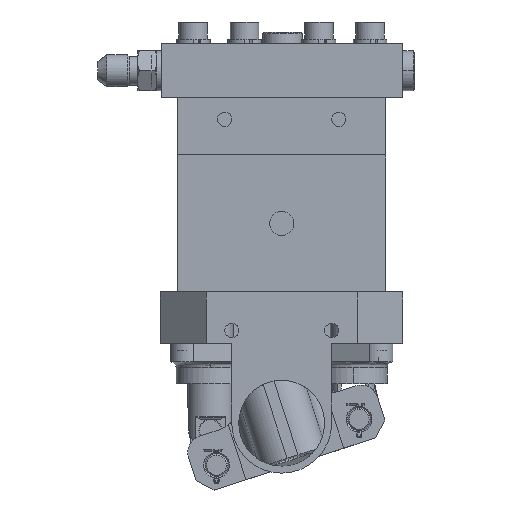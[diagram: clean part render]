
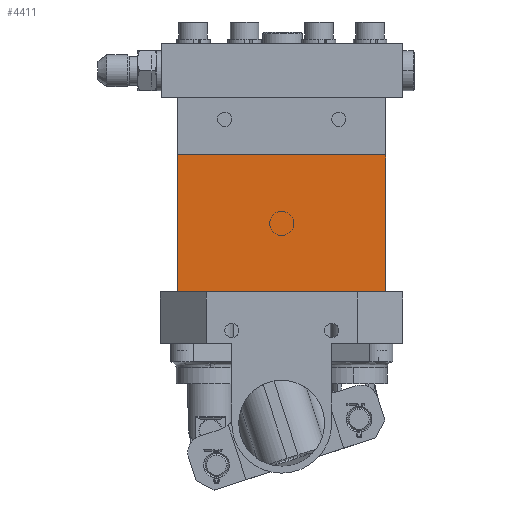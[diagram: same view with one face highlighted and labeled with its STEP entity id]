
A CAD part, front view. The second image highlights one B-rep face of the part: STEP entity #4411.
In plain terms, the highlighted planar face has unit normal (0, 1, 0).
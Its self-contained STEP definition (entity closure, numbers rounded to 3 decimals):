
#209 = EDGE_LOOP ( 'NONE', ( #29406, #19700, #30685, #22601 ) ) ;
#1458 = CARTESIAN_POINT ( 'NONE',  ( -55.505, 12.111, 66. ) ) ;
#3473 = EDGE_CURVE ( 'NONE', #17314, #12150, #29342, .T. ) ;
#4037 = LINE ( 'NONE', #17526, #6325 ) ;
#4411 = ADVANCED_FACE ( 'NONE', ( #18226 ), #31164, .T. ) ;
#6078 = VERTEX_POINT ( 'NONE', #13946 ) ;
#6267 = EDGE_CURVE ( 'NONE', #12150, #6078, #4037, .T. ) ;
#6325 = VECTOR ( 'NONE', #27536, 1000. ) ;
#6490 = DIRECTION ( 'NONE',  ( 1., 0., 0. ) ) ;
#9522 = AXIS2_PLACEMENT_3D ( 'NONE', #11755, #31268, #16654 ) ;
#10404 = LINE ( 'NONE', #13121, #18410 ) ;
#11038 = LINE ( 'NONE', #30442, #28204 ) ;
#11755 = CARTESIAN_POINT ( 'NONE',  ( 17.495, 12.111, 18. ) ) ;
#12150 = VERTEX_POINT ( 'NONE', #27032 ) ;
#12825 = EDGE_CURVE ( 'NONE', #24253, #6078, #11038, .T. ) ;
#13121 = CARTESIAN_POINT ( 'NONE',  ( -55.505, 12.111, 42. ) ) ;
#13946 = CARTESIAN_POINT ( 'NONE',  ( 17.495, 12.111, 18. ) ) ;
#15500 = DIRECTION ( 'NONE',  ( 1., 0., 0. ) ) ;
#16654 = DIRECTION ( 'NONE',  ( -1., 0., 0. ) ) ;
#17314 = VERTEX_POINT ( 'NONE', #1458 ) ;
#17526 = CARTESIAN_POINT ( 'NONE',  ( 17.495, 12.111, 42. ) ) ;
#18117 = DIRECTION ( 'NONE',  ( 0., 0., 1. ) ) ;
#18226 = FACE_OUTER_BOUND ( 'NONE', #209, .T. ) ;
#18410 = VECTOR ( 'NONE', #18117, 1000. ) ;
#19700 = ORIENTED_EDGE ( 'NONE', *, *, #20230, .T. ) ;
#20230 = EDGE_CURVE ( 'NONE', #24253, #17314, #10404, .T. ) ;
#22446 = VECTOR ( 'NONE', #6490, 1000. ) ;
#22601 = ORIENTED_EDGE ( 'NONE', *, *, #6267, .T. ) ;
#23758 = CARTESIAN_POINT ( 'NONE',  ( -19.005, 12.111, 66. ) ) ;
#24253 = VERTEX_POINT ( 'NONE', #29024 ) ;
#27032 = CARTESIAN_POINT ( 'NONE',  ( 17.495, 12.111, 66. ) ) ;
#27536 = DIRECTION ( 'NONE',  ( 0., 0., -1. ) ) ;
#28204 = VECTOR ( 'NONE', #15500, 1000. ) ;
#29024 = CARTESIAN_POINT ( 'NONE',  ( -55.505, 12.111, 18. ) ) ;
#29342 = LINE ( 'NONE', #23758, #22446 ) ;
#29406 = ORIENTED_EDGE ( 'NONE', *, *, #12825, .F. ) ;
#30442 = CARTESIAN_POINT ( 'NONE',  ( -19.005, 12.111, 18. ) ) ;
#30685 = ORIENTED_EDGE ( 'NONE', *, *, #3473, .T. ) ;
#31164 = PLANE ( 'NONE',  #9522 ) ;
#31268 = DIRECTION ( 'NONE',  ( 0., 1., 0. ) ) ;
